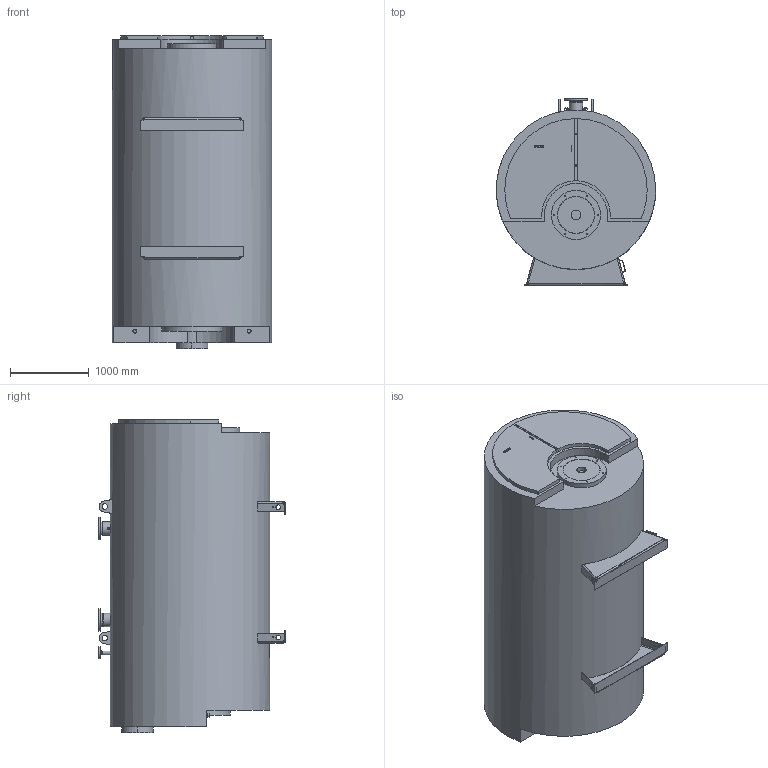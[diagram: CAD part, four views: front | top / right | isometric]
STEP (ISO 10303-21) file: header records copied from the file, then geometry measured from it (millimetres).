
FILE_DESCRIPTION(('TFLEX Exchange Step'),'2;1');
FILE_NAME('M62D021_7550656_H001.stp', '2024-08-09T11:41:55+03:00',('kort'),('Unknown organisation'),'TFLEX Exchange 2024.2','T-FLEX CAD','Unknown authorisation');
FILE_SCHEMA( ('AP242_MANAGED_MODEL_BASED_3D_ENGINEERING_MIM_LF {1 0 10303 442 1 1 4 }') );
Length unit declared in the file: millimetre
Products named in the file (1): 7550656_Grundkessel M62D021 RD_H001
Bounding box: 2018.21 x 2365 x 3964.2 mm (x, y, z)
Volume: 11948857441.1 mm3; surface area: 34430304.6 mm2
Topology: 42 solids, 42 shells, 630 faces, 1558 edges, 1062 vertices
Faces by surface type: plane 343, cylinder 174, bspline 91, torus 14, cone 8
Full cylindrical faces by diameter (mm): 2.2 x4, 3.2 x4, 3.3 x4, 4 x4, 6.5 x4, 10.3 x6, 12 x2, 13 x6, 18 x6, 18.63 x2, 22 x16, 27 x2, 40.3 x1, 41.3 x2, 43.1 x1, 47.803 x2, 48.3 x3, 60 x4, 70 x2, 88 x1, 120 x1, 150 x1, 152.3 x2, 159.3 x2, 168.3 x2, 212 x2, 215 x2, 285 x2, 620 x1, 760 x1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
Entity records: 28962 total; most frequent: CARTESIAN_POINT 13592, ORIENTED_EDGE 3116, DIRECTION 2834, EDGE_CURVE 1558, VERTEX_POINT 1062, AXIS2_PLACEMENT_3D 987, VECTOR 860, LINE 860
